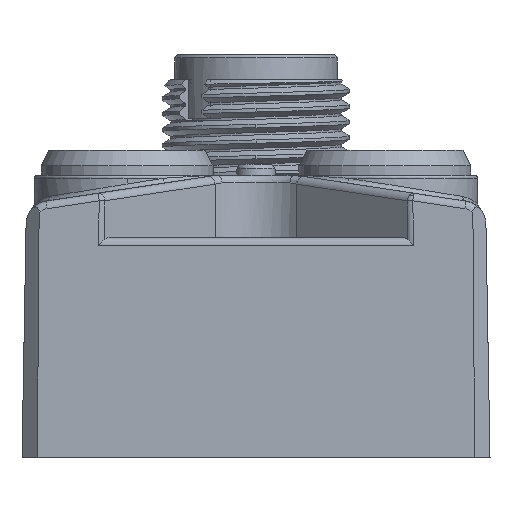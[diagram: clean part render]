
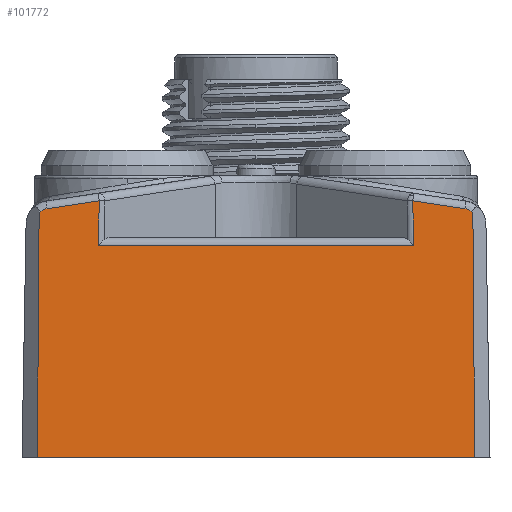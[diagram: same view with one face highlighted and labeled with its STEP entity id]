
A CAD part, front view. The second image highlights one B-rep face of the part: STEP entity #101772.
In plain terms, the highlighted planar face has unit normal (0, -1, 0.018).
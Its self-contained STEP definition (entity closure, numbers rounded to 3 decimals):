
#3424 = CARTESIAN_POINT ( 'NONE',  ( -10.08, -54.983, 12.709 ) ) ;
#7712 = VERTEX_POINT ( 'NONE', #155443 ) ;
#7816 = CARTESIAN_POINT ( 'NONE',  ( 0., -55.219, -0.85 ) ) ;
#9126 = ORIENTED_EDGE ( 'NONE', *, *, #114850, .T. ) ;
#10525 = VERTEX_POINT ( 'NONE', #63722 ) ;
#11990 = VERTEX_POINT ( 'NONE', #79448 ) ;
#16044 = AXIS2_PLACEMENT_3D ( 'NONE', #151105, #73844, #73293 ) ;
#16553 = LINE ( 'NONE', #23630, #113457 ) ;
#17317 = ORIENTED_EDGE ( 'NONE', *, *, #67597, .T. ) ;
#21003 = CARTESIAN_POINT ( 'NONE',  ( 13.987, -55.219, -0.85 ) ) ;
#23630 = CARTESIAN_POINT ( 'NONE',  ( 0., -54.983, 12.709 ) ) ;
#28502 = LINE ( 'NONE', #106245, #135518 ) ;
#30621 = CARTESIAN_POINT ( 'NONE',  ( -13.874, -54.946, 14.811 ) ) ;
#31295 = EDGE_CURVE ( 'NONE', #54166, #7712, #28502, .T. ) ;
#31669 = CARTESIAN_POINT ( 'NONE',  ( 13.874, -54.946, 14.811 ) ) ;
#34094 = CARTESIAN_POINT ( 'NONE',  ( 11.695, -54.937, 15.305 ) ) ;
#34116 = VERTEX_POINT ( 'NONE', #31669 ) ;
#34993 = DIRECTION ( 'NONE',  ( -1., 0., 0. ) ) ;
#36676 = DIRECTION ( 'NONE',  ( -0.007, 0.017, 1. ) ) ;
#37854 = CARTESIAN_POINT ( 'NONE',  ( -10.03, -54.933, 15.558 ) ) ;
#38072 = CARTESIAN_POINT ( 'NONE',  ( 13.359, -54.942, 15.052 ) ) ;
#41364 = ORIENTED_EDGE ( 'NONE', *, *, #82612, .T. ) ;
#44935 = B_SPLINE_CURVE_WITH_KNOTS ( 'NONE', 3,
 ( #102860, #117519, #119772, #30621 ),
 .UNSPECIFIED., .F., .F.,
 ( 4, 4 ),
 ( 0., 1. ),
 .UNSPECIFIED. ) ;
#49366 = CARTESIAN_POINT ( 'NONE',  ( -10.08, -54.983, 12.709 ) ) ;
#53451 = EDGE_CURVE ( 'NONE', #7712, #59552, #154371, .T. ) ;
#54166 = VERTEX_POINT ( 'NONE', #85517 ) ;
#57892 = ORIENTED_EDGE ( 'NONE', *, *, #53451, .T. ) ;
#58070 = CARTESIAN_POINT ( 'NONE',  ( 13.359, -54.942, 15.052 ) ) ;
#59552 = VERTEX_POINT ( 'NONE', #21003 ) ;
#60891 = PLANE ( 'NONE',  #16044 ) ;
#63722 = CARTESIAN_POINT ( 'NONE',  ( -13.359, -54.942, 15.052 ) ) ;
#63833 = ORIENTED_EDGE ( 'NONE', *, *, #31295, .T. ) ;
#65631 = CARTESIAN_POINT ( 'NONE',  ( 10.03, -54.933, 15.558 ) ) ;
#67597 = EDGE_CURVE ( 'NONE', #151923, #123774, #96420, .T. ) ;
#71693 = VECTOR ( 'NONE', #137090, 1000. ) ;
#73293 = DIRECTION ( 'NONE',  ( 0., -0.017, -1. ) ) ;
#73844 = DIRECTION ( 'NONE',  ( 0., -1., 0.017 ) ) ;
#76804 = ORIENTED_EDGE ( 'NONE', *, *, #143955, .T. ) ;
#77750 = FACE_OUTER_BOUND ( 'NONE', #96538, .T. ) ;
#77793 = CARTESIAN_POINT ( 'NONE',  ( 13.987, -55.219, -0.85 ) ) ;
#78587 = DIRECTION ( 'NONE',  ( -0.007, -0.017, -1. ) ) ;
#79448 = CARTESIAN_POINT ( 'NONE',  ( 10.03, -54.933, 15.558 ) ) ;
#81681 = EDGE_CURVE ( 'NONE', #10525, #54166, #44935, .T. ) ;
#82612 = EDGE_CURVE ( 'NONE', #90213, #151923, #16553, .T. ) ;
#83422 = CARTESIAN_POINT ( 'NONE',  ( 13.545, -54.942, 15.024 ) ) ;
#85517 = CARTESIAN_POINT ( 'NONE',  ( -13.874, -54.946, 14.811 ) ) ;
#90213 = VERTEX_POINT ( 'NONE', #134786 ) ;
#90691 = LINE ( 'NONE', #65631, #121073 ) ;
#91727 = LINE ( 'NONE', #153372, #109929 ) ;
#94544 = EDGE_CURVE ( 'NONE', #11990, #90213, #90691, .T. ) ;
#96420 = LINE ( 'NONE', #3424, #159082 ) ;
#96538 = EDGE_LOOP ( 'NONE', ( #17317, #100769, #144366, #63833, #57892, #9126, #152799, #76804, #128117, #41364 ) ) ;
#96939 = CARTESIAN_POINT ( 'NONE',  ( 13.731, -54.944, 14.938 ) ) ;
#100769 = ORIENTED_EDGE ( 'NONE', *, *, #128237, .T. ) ;
#101772 = ADVANCED_FACE ( 'NONE', ( #77750 ), #60891, .T. ) ;
#101893 = VECTOR ( 'NONE', #127697, 1000. ) ;
#102860 = CARTESIAN_POINT ( 'NONE',  ( -13.359, -54.942, 15.052 ) ) ;
#105676 = DIRECTION ( 'NONE',  ( 0.017, -0.017, -1. ) ) ;
#106245 = CARTESIAN_POINT ( 'NONE',  ( -13.874, -54.946, 14.811 ) ) ;
#109929 = VECTOR ( 'NONE', #128061, 1000. ) ;
#111427 = EDGE_CURVE ( 'NONE', #131874, #34116, #112382, .T. ) ;
#112382 = B_SPLINE_CURVE_WITH_KNOTS ( 'NONE', 3,
 ( #58070, #83422, #96939, #135948 ),
 .UNSPECIFIED., .F., .F.,
 ( 4, 4 ),
 ( 0., 1. ),
 .UNSPECIFIED. ) ;
#113457 = VECTOR ( 'NONE', #34993, 1000. ) ;
#114850 = EDGE_CURVE ( 'NONE', #59552, #34116, #162143, .T. ) ;
#117519 = CARTESIAN_POINT ( 'NONE',  ( -13.549, -54.942, 15.024 ) ) ;
#117839 = VECTOR ( 'NONE', #36676, 1000. ) ;
#119772 = CARTESIAN_POINT ( 'NONE',  ( -13.728, -54.944, 14.941 ) ) ;
#121073 = VECTOR ( 'NONE', #105676, 1000. ) ;
#123774 = VERTEX_POINT ( 'NONE', #37854 ) ;
#127697 = DIRECTION ( 'NONE',  ( -0.989, 0.003, 0.15 ) ) ;
#128061 = DIRECTION ( 'NONE',  ( -0.989, -0.003, -0.15 ) ) ;
#128117 = ORIENTED_EDGE ( 'NONE', *, *, #94544, .T. ) ;
#128237 = EDGE_CURVE ( 'NONE', #123774, #10525, #91727, .T. ) ;
#131874 = VERTEX_POINT ( 'NONE', #38072 ) ;
#134786 = CARTESIAN_POINT ( 'NONE',  ( 10.08, -54.983, 12.709 ) ) ;
#135518 = VECTOR ( 'NONE', #78587, 1000. ) ;
#135948 = CARTESIAN_POINT ( 'NONE',  ( 13.874, -54.946, 14.811 ) ) ;
#136267 = LINE ( 'NONE', #34094, #101893 ) ;
#137090 = DIRECTION ( 'NONE',  ( 1., 0., 0. ) ) ;
#143955 = EDGE_CURVE ( 'NONE', #131874, #11990, #136267, .T. ) ;
#144366 = ORIENTED_EDGE ( 'NONE', *, *, #81681, .T. ) ;
#151105 = CARTESIAN_POINT ( 'NONE',  ( -14.155, -54.931, 15.657 ) ) ;
#151923 = VERTEX_POINT ( 'NONE', #49366 ) ;
#152799 = ORIENTED_EDGE ( 'NONE', *, *, #111427, .F. ) ;
#153372 = CARTESIAN_POINT ( 'NONE',  ( -11.695, -54.937, 15.305 ) ) ;
#154371 = LINE ( 'NONE', #7816, #71693 ) ;
#155443 = CARTESIAN_POINT ( 'NONE',  ( -13.987, -55.219, -0.85 ) ) ;
#156935 = DIRECTION ( 'NONE',  ( 0.017, 0.017, 1. ) ) ;
#159082 = VECTOR ( 'NONE', #156935, 1000. ) ;
#162143 = LINE ( 'NONE', #77793, #117839 ) ;
